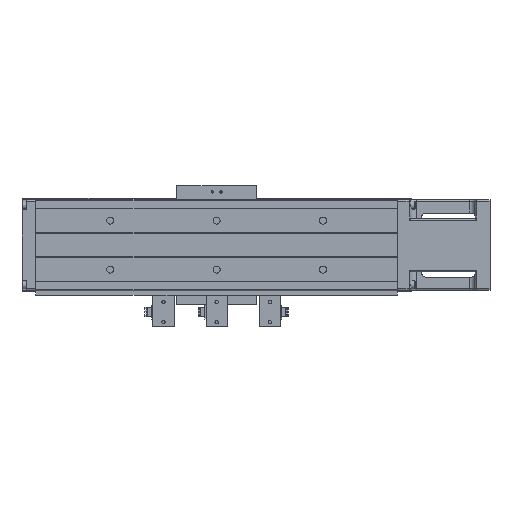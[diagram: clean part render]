
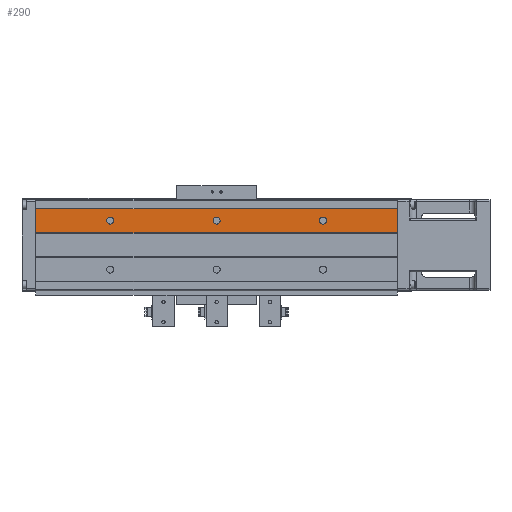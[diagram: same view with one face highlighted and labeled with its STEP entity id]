
A CAD part, front view. The second image highlights one B-rep face of the part: STEP entity #290.
In plain terms, the highlighted planar face has unit normal (0, -1, 0).
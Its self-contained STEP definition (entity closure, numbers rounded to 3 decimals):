
#290 = ADVANCED_FACE ( 'NONE', ( #4536, #19607, #18112, #26123 ), #32633, .T. ) ;
#912 = VECTOR ( 'NONE', #36608, 1000. ) ;
#1252 = LINE ( 'NONE', #27580, #17294 ) ;
#1653 = CARTESIAN_POINT ( 'NONE',  ( -150., -32., 23. ) ) ;
#1656 = AXIS2_PLACEMENT_3D ( 'NONE', #35956, #7171, #39295 ) ;
#1872 = EDGE_CURVE ( 'NONE', #29464, #12747, #21930, .T. ) ;
#2208 = CARTESIAN_POINT ( 'NONE',  ( 50., -32., 19.7 ) ) ;
#2377 = VECTOR ( 'NONE', #9715, 1000. ) ;
#2382 = DIRECTION ( 'NONE',  ( 0., 1., 0. ) ) ;
#3112 = ORIENTED_EDGE ( 'NONE', *, *, #39070, .T. ) ;
#4231 = EDGE_LOOP ( 'NONE', ( #14138, #11529 ) ) ;
#4536 = FACE_OUTER_BOUND ( 'NONE', #10772, .T. ) ;
#5621 = DIRECTION ( 'NONE',  ( 0., 0., -1. ) ) ;
#5790 = AXIS2_PLACEMENT_3D ( 'NONE', #16190, #6664, #23034 ) ;
#6664 = DIRECTION ( 'NONE',  ( 0., 1., 0. ) ) ;
#6887 = EDGE_CURVE ( 'NONE', #26599, #10339, #17476, .T. ) ;
#7171 = DIRECTION ( 'NONE',  ( 0., -1., 0. ) ) ;
#7619 = CARTESIAN_POINT ( 'NONE',  ( 120., -32., 34. ) ) ;
#7734 = LINE ( 'NONE', #31248, #25811 ) ;
#8376 = DIRECTION ( 'NONE',  ( 0., 1., 0. ) ) ;
#8844 = CARTESIAN_POINT ( 'NONE',  ( 50., -32., 26.3 ) ) ;
#8863 = CARTESIAN_POINT ( 'NONE',  ( 50., -32., 23. ) ) ;
#9118 = CARTESIAN_POINT ( 'NONE',  ( -50., -32., 19.7 ) ) ;
#9715 = DIRECTION ( 'NONE',  ( 0., 0., 1. ) ) ;
#10268 = VERTEX_POINT ( 'NONE', #18387 ) ;
#10339 = VERTEX_POINT ( 'NONE', #8844 ) ;
#10441 = LINE ( 'NONE', #22591, #2377 ) ;
#10544 = DIRECTION ( 'NONE',  ( 0., 0., -1. ) ) ;
#10772 = EDGE_LOOP ( 'NONE', ( #14162, #3112, #37951, #36872 ) ) ;
#11152 = CIRCLE ( 'NONE', #20062, 3.3 ) ;
#11529 = ORIENTED_EDGE ( 'NONE', *, *, #24703, .T. ) ;
#11534 = EDGE_CURVE ( 'NONE', #16868, #13429, #10441, .T. ) ;
#12747 = VERTEX_POINT ( 'NONE', #33126 ) ;
#13429 = VERTEX_POINT ( 'NONE', #7619 ) ;
#13782 = CARTESIAN_POINT ( 'NONE',  ( -220., -32., 11.5 ) ) ;
#14138 = ORIENTED_EDGE ( 'NONE', *, *, #34277, .T. ) ;
#14162 = ORIENTED_EDGE ( 'NONE', *, *, #17821, .T. ) ;
#15112 = EDGE_LOOP ( 'NONE', ( #40013, #27730 ) ) ;
#15201 = DIRECTION ( 'NONE',  ( 1., 0., 0. ) ) ;
#16190 = CARTESIAN_POINT ( 'NONE',  ( -150., -32., 23. ) ) ;
#16847 = VERTEX_POINT ( 'NONE', #36978 ) ;
#16856 = CARTESIAN_POINT ( 'NONE',  ( 50., -32., 23. ) ) ;
#16868 = VERTEX_POINT ( 'NONE', #21365 ) ;
#17123 = CARTESIAN_POINT ( 'NONE',  ( -50., -32., 23. ) ) ;
#17294 = VECTOR ( 'NONE', #34236, 1000. ) ;
#17476 = CIRCLE ( 'NONE', #39445, 3.3 ) ;
#17821 = EDGE_CURVE ( 'NONE', #16847, #39393, #31019, .T. ) ;
#18112 = FACE_BOUND ( 'NONE', #4231, .T. ) ;
#18387 = CARTESIAN_POINT ( 'NONE',  ( -50., -32., 26.3 ) ) ;
#19607 = FACE_BOUND ( 'NONE', #15112, .T. ) ;
#20062 = AXIS2_PLACEMENT_3D ( 'NONE', #37621, #2382, #5621 ) ;
#20776 = DIRECTION ( 'NONE',  ( 0., 1., 0. ) ) ;
#21365 = CARTESIAN_POINT ( 'NONE',  ( 120., -32., 11.5 ) ) ;
#21930 = CIRCLE ( 'NONE', #36875, 3.3 ) ;
#22591 = CARTESIAN_POINT ( 'NONE',  ( 120., -32., 11.5 ) ) ;
#23034 = DIRECTION ( 'NONE',  ( 0., 0., -1. ) ) ;
#23807 = DIRECTION ( 'NONE',  ( 0., 0., -1. ) ) ;
#24703 = EDGE_CURVE ( 'NONE', #10268, #34355, #26667, .T. ) ;
#25708 = EDGE_CURVE ( 'NONE', #12747, #29464, #30117, .T. ) ;
#25811 = VECTOR ( 'NONE', #15201, 1000. ) ;
#26123 = FACE_BOUND ( 'NONE', #40223, .T. ) ;
#26599 = VERTEX_POINT ( 'NONE', #2208 ) ;
#26667 = CIRCLE ( 'NONE', #27011, 3.3 ) ;
#27011 = AXIS2_PLACEMENT_3D ( 'NONE', #17123, #20776, #36785 ) ;
#27400 = ORIENTED_EDGE ( 'NONE', *, *, #6887, .T. ) ;
#27580 = CARTESIAN_POINT ( 'NONE',  ( -620., -32., 11.5 ) ) ;
#27730 = ORIENTED_EDGE ( 'NONE', *, *, #25708, .T. ) ;
#27829 = DIRECTION ( 'NONE',  ( 0., 1., 0. ) ) ;
#29464 = VERTEX_POINT ( 'NONE', #35224 ) ;
#29589 = CARTESIAN_POINT ( 'NONE',  ( -220., -32., 5.95 ) ) ;
#29904 = EDGE_CURVE ( 'NONE', #10339, #26599, #37572, .T. ) ;
#30117 = CIRCLE ( 'NONE', #5790, 3.3 ) ;
#30184 = AXIS2_PLACEMENT_3D ( 'NONE', #8863, #27829, #37780 ) ;
#30496 = ORIENTED_EDGE ( 'NONE', *, *, #29904, .T. ) ;
#31019 = LINE ( 'NONE', #29589, #912 ) ;
#31248 = CARTESIAN_POINT ( 'NONE',  ( -620., -32., 34. ) ) ;
#32633 = PLANE ( 'NONE',  #1656 ) ;
#33126 = CARTESIAN_POINT ( 'NONE',  ( -150., -32., 26.3 ) ) ;
#34236 = DIRECTION ( 'NONE',  ( 1., 0., 0. ) ) ;
#34277 = EDGE_CURVE ( 'NONE', #34355, #10268, #11152, .T. ) ;
#34355 = VERTEX_POINT ( 'NONE', #9118 ) ;
#35224 = CARTESIAN_POINT ( 'NONE',  ( -150., -32., 19.7 ) ) ;
#35956 = CARTESIAN_POINT ( 'NONE',  ( 120., -32., -33.6 ) ) ;
#36608 = DIRECTION ( 'NONE',  ( 0., 0., -1. ) ) ;
#36785 = DIRECTION ( 'NONE',  ( 0., 0., -1. ) ) ;
#36872 = ORIENTED_EDGE ( 'NONE', *, *, #40517, .F. ) ;
#36875 = AXIS2_PLACEMENT_3D ( 'NONE', #1653, #8376, #23807 ) ;
#36978 = CARTESIAN_POINT ( 'NONE',  ( -220., -32., 34. ) ) ;
#37572 = CIRCLE ( 'NONE', #30184, 3.3 ) ;
#37621 = CARTESIAN_POINT ( 'NONE',  ( -50., -32., 23. ) ) ;
#37780 = DIRECTION ( 'NONE',  ( 0., 0., -1. ) ) ;
#37951 = ORIENTED_EDGE ( 'NONE', *, *, #11534, .T. ) ;
#39070 = EDGE_CURVE ( 'NONE', #39393, #16868, #1252, .T. ) ;
#39295 = DIRECTION ( 'NONE',  ( -1., 0., 0. ) ) ;
#39322 = DIRECTION ( 'NONE',  ( 0., 1., 0. ) ) ;
#39393 = VERTEX_POINT ( 'NONE', #13782 ) ;
#39445 = AXIS2_PLACEMENT_3D ( 'NONE', #16856, #39322, #10544 ) ;
#40013 = ORIENTED_EDGE ( 'NONE', *, *, #1872, .T. ) ;
#40223 = EDGE_LOOP ( 'NONE', ( #27400, #30496 ) ) ;
#40517 = EDGE_CURVE ( 'NONE', #16847, #13429, #7734, .T. ) ;
